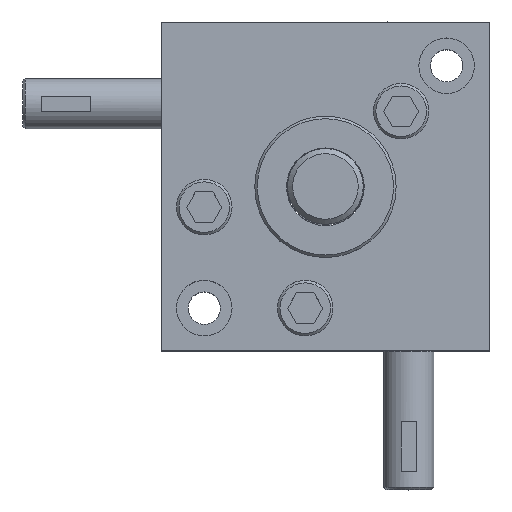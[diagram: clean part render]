
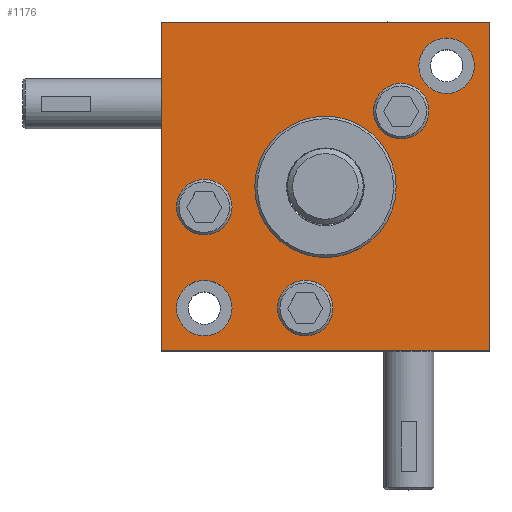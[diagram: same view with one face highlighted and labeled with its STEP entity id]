
A CAD part, top view. The second image highlights one B-rep face of the part: STEP entity #1176.
In plain terms, the highlighted planar face has unit normal (0, 0, 1) as drawn and (0, 0, -1) by its records, which use the part's own axes.
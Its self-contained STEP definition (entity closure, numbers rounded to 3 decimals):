
#1176=ADVANCED_FACE('',(#3448,#3449,#3450,#3451,#3452,#3453,#3454),#3455,.F.);
#3448=FACE_OUTER_BOUND('',#7318,.T.);
#3449=FACE_BOUND('',#7319,.T.);
#3450=FACE_BOUND('',#7320,.T.);
#3451=FACE_BOUND('',#7321,.T.);
#3452=FACE_BOUND('',#7322,.T.);
#3453=FACE_BOUND('',#7323,.T.);
#3454=FACE_BOUND('',#7324,.T.);
#3455=PLANE('',#7325);
#7318=EDGE_LOOP('',(#12565,#12566,#12567,#12568));
#7319=EDGE_LOOP('',(#12569));
#7320=EDGE_LOOP('',(#12570));
#7321=EDGE_LOOP('',(#12571));
#7322=EDGE_LOOP('',(#12572));
#7323=EDGE_LOOP('',(#12573));
#7324=EDGE_LOOP('',(#12574));
#7325=AXIS2_PLACEMENT_3D('',#12575,#12576,#12577);
#12565=ORIENTED_EDGE('',*,*,#27288,.F.);
#12566=ORIENTED_EDGE('',*,*,#27289,.F.);
#12567=ORIENTED_EDGE('',*,*,#27252,.F.);
#12568=ORIENTED_EDGE('',*,*,#27250,.F.);
#12569=ORIENTED_EDGE('',*,*,#27290,.T.);
#12570=ORIENTED_EDGE('',*,*,#27291,.T.);
#12571=ORIENTED_EDGE('',*,*,#27292,.T.);
#12572=ORIENTED_EDGE('',*,*,#27293,.T.);
#12573=ORIENTED_EDGE('',*,*,#27294,.T.);
#12574=ORIENTED_EDGE('',*,*,#27295,.T.);
#12575=CARTESIAN_POINT('',(0.0,0.0,-17.0));
#12576=DIRECTION('',(0.,0.,1.0));
#12577=DIRECTION('',(1.0,0.,0.));
#27250=EDGE_CURVE('',#32919,#32921,#32922,.T.);
#27252=EDGE_CURVE('',#32921,#32924,#32925,.T.);
#27288=EDGE_CURVE('',#32994,#32919,#32995,.T.);
#27289=EDGE_CURVE('',#32924,#32994,#32996,.T.);
#27290=EDGE_CURVE('',#32997,#32997,#32998,.T.);
#27291=EDGE_CURVE('',#32999,#32999,#33000,.T.);
#27292=EDGE_CURVE('',#33001,#33001,#33002,.T.);
#27293=EDGE_CURVE('',#33003,#33003,#33004,.T.);
#27294=EDGE_CURVE('',#33005,#33005,#33006,.T.);
#27295=EDGE_CURVE('',#33007,#33007,#33008,.T.);
#32919=VERTEX_POINT('',#42239);
#32921=VERTEX_POINT('',#42242);
#32922=LINE('',#42243,#42244);
#32924=VERTEX_POINT('',#42247);
#32925=LINE('',#42248,#42249);
#32994=VERTEX_POINT('',#42343);
#32995=LINE('',#42344,#42345);
#32996=LINE('',#42346,#42347);
#32997=VERTEX_POINT('',#42348);
#32998=CIRCLE('',#42349,5.5);
#32999=VERTEX_POINT('',#42350);
#33000=CIRCLE('',#42351,5.5);
#33001=VERTEX_POINT('',#42352);
#33002=CIRCLE('',#42353,5.5);
#33003=VERTEX_POINT('',#42354);
#33004=CIRCLE('',#42355,5.5);
#33005=VERTEX_POINT('',#42356);
#33006=CIRCLE('',#42357,5.5);
#33007=VERTEX_POINT('',#42358);
#33008=CIRCLE('',#42359,14.0);
#42239=CARTESIAN_POINT('',(32.5,-32.5,-17.0));
#42242=CARTESIAN_POINT('',(32.5,32.5,-17.0));
#42243=CARTESIAN_POINT('',(32.5,0.,-17.0));
#42244=VECTOR('',#55619,1.0);
#42247=CARTESIAN_POINT('',(-32.5,32.5,-17.0));
#42248=CARTESIAN_POINT('',(0.0,32.5,-17.0));
#42249=VECTOR('',#55621,1.0);
#42343=CARTESIAN_POINT('',(-32.5,-32.5,-17.0));
#42344=CARTESIAN_POINT('',(0.,-32.5,-17.0));
#42345=VECTOR('',#55677,1.0);
#42346=CARTESIAN_POINT('',(-32.5,0.,-17.0));
#42347=VECTOR('',#55678,1.0);
#42348=CARTESIAN_POINT('',(1.5,-24.0,-17.0));
#42349=AXIS2_PLACEMENT_3D('',#55679,#55680,#55681);
#42350=CARTESIAN_POINT('',(-18.5,-24.0,-17.0));
#42351=AXIS2_PLACEMENT_3D('',#55682,#55683,#55684);
#42352=CARTESIAN_POINT('',(-18.5,-4.0,-17.0));
#42353=AXIS2_PLACEMENT_3D('',#55685,#55686,#55687);
#42354=CARTESIAN_POINT('',(20.5,15.0,-17.0));
#42355=AXIS2_PLACEMENT_3D('',#55688,#55689,#55690);
#42356=CARTESIAN_POINT('',(29.5,24.0,-17.0));
#42357=AXIS2_PLACEMENT_3D('',#55691,#55692,#55693);
#42358=CARTESIAN_POINT('',(14.0,0.,-17.0));
#42359=AXIS2_PLACEMENT_3D('',#55694,#55695,#55696);
#55619=DIRECTION('',(0.0,1.0,0.));
#55621=DIRECTION('',(-1.0,0.0,0.));
#55677=DIRECTION('',(1.0,0.0,0.));
#55678=DIRECTION('',(0.0,-1.0,0.));
#55679=CARTESIAN_POINT('',(-4.0,-24.0,-17.0));
#55680=DIRECTION('',(0.,0.,1.0));
#55681=DIRECTION('',(1.0,0.,0.));
#55682=CARTESIAN_POINT('',(-24.0,-24.0,-17.0));
#55683=DIRECTION('',(0.0,0.0,1.0));
#55684=DIRECTION('',(1.0,0.0,0.0));
#55685=CARTESIAN_POINT('',(-24.0,-4.0,-17.0));
#55686=DIRECTION('',(0.0,0.0,1.0));
#55687=DIRECTION('',(1.0,0.0,0.0));
#55688=CARTESIAN_POINT('',(15.0,15.0,-17.0));
#55689=DIRECTION('',(0.0,0.0,1.0));
#55690=DIRECTION('',(1.0,0.0,0.0));
#55691=CARTESIAN_POINT('',(24.0,24.0,-17.0));
#55692=DIRECTION('',(0.0,0.0,1.0));
#55693=DIRECTION('',(1.0,0.0,0.0));
#55694=CARTESIAN_POINT('',(0.0,0.0,-17.0));
#55695=DIRECTION('',(0.,0.,1.0));
#55696=DIRECTION('',(1.0,0.,0.));
